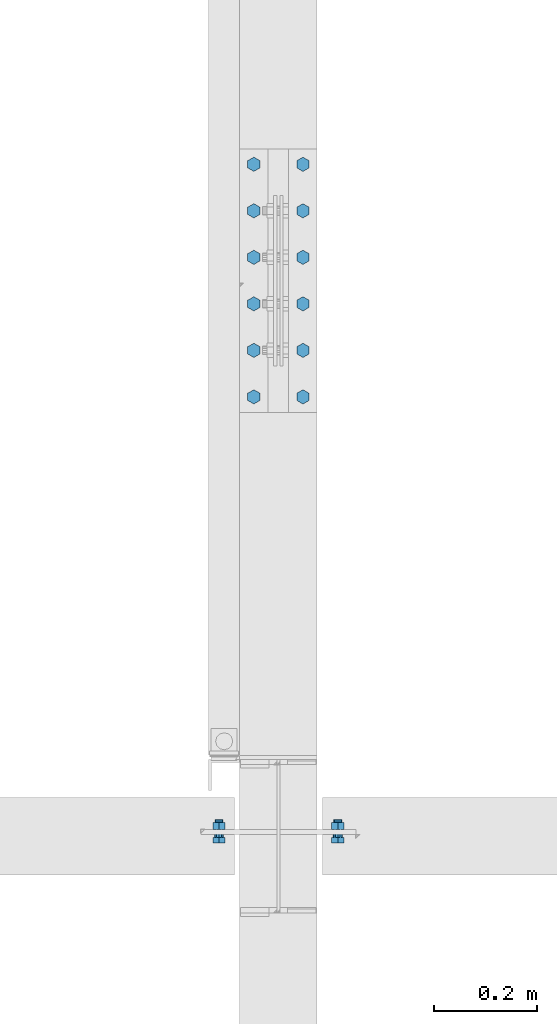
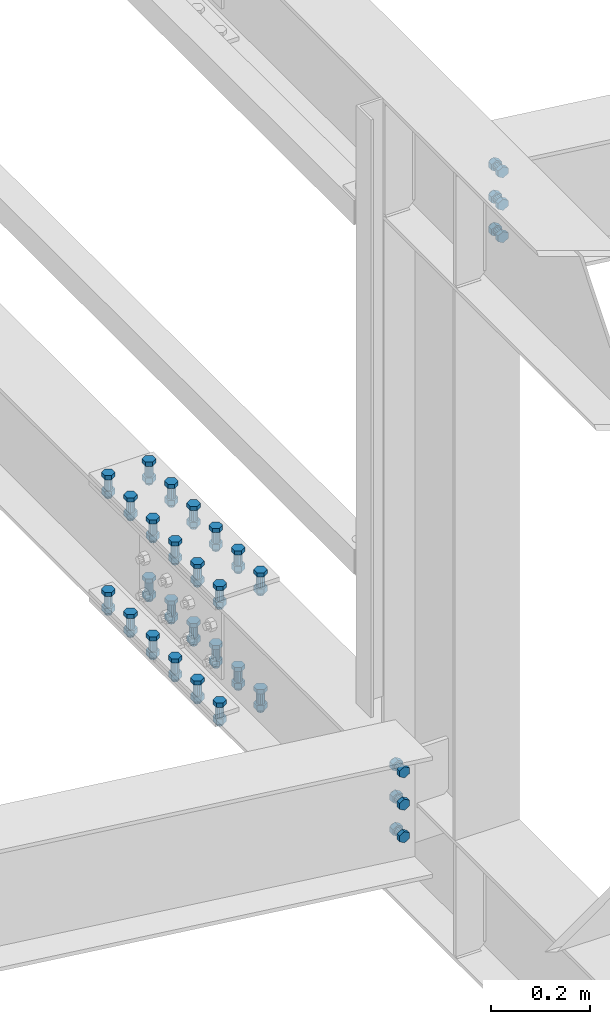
# One storey, part 142 of 3134: 10 mechanical fasteners, 4 elements without a shape of their own.
"""IFC2X3 building model written with IfcOpenShell, lengths in millimetres."""

import ifcopenshell
import ifcopenshell.guid

model = None  # the IFC model being written
_history = None  # IfcOwnerHistory: only IFC2X3 demands one
_inside = {}  # id of a spatial element -> (the spatial element, [elements in it])
_under = {}  # id of a project, library or spatial element -> (it, [spatial elements below it])
_declared = {}  # id of a project -> (the project, [libraries it declares])
_typed = {}  # id of a type object -> (the type object, [elements of that type])
_made_of = {}  # id of a material, layer set ... -> (it, [elements and type objects made of it])


def new_model(schema):
    """Start an empty IFC model of exactly this schema.

    Asked for "IFC4X3", IfcOpenShell would pick the latest addendum, in which some entities
    have other attributes; the version numbers below select the first issue.
    IFC2X3 requires an IfcOwnerHistory on every rooted entity: one is made here for all.
    """
    global model, _history
    if schema == "IFC4X3":
        model = ifcopenshell.file(schema_version=(4, 3, 0, 0))
    else:
        model = ifcopenshell.file(schema=schema)
    _inside.clear()
    _under.clear()
    _declared.clear()
    _typed.clear()
    _made_of.clear()
    _history = None
    if model.schema == "IFC2X3":
        org = make("IfcOrganization", Name="unknown")
        user = make(
            "IfcPersonAndOrganization",
            ThePerson=make("IfcPerson", FamilyName="unknown"),
            TheOrganization=org,
        )
        app = make(
            "IfcApplication",
            ApplicationDeveloper=org,
            Version="unknown",
            ApplicationFullName="unknown",
            ApplicationIdentifier="unknown",
        )
        _history = make(
            "IfcOwnerHistory",
            OwningUser=user,
            OwningApplication=app,
            ChangeAction="ADDED",
            CreationDate=0,
        )
    return model


def make(cls, **values):
    """One entity of the class cls with the attributes given. An attribute that is None is left unset."""
    return model.create_entity(
        cls, **{name: value for name, value in values.items() if value is not None}
    )


def rooted(cls, **values):
    """An entity with a GlobalId (a new one), such as an element, a storey or a relation."""
    return make(cls, GlobalId=ifcopenshell.guid.new(), OwnerHistory=_history, **values)


def si_unit(unit_type, name, prefix=None):
    """IfcSIUnit, for example si_unit("LENGTHUNIT", "METRE", prefix="MILLI")."""
    return make("IfcSIUnit", UnitType=unit_type, Prefix=prefix, Name=name)


def assignment(units):
    """IfcUnitAssignment: the units of a project."""
    return None if units is None else make("IfcUnitAssignment", Units=units)


def point(xyz):
    """IfcCartesianPoint."""
    return None if xyz is None else make("IfcCartesianPoint", Coordinates=xyz)


def direction(xyz):
    """IfcDirection."""
    return None if xyz is None else make("IfcDirection", DirectionRatios=xyz)


def frame(location, z_axis=None, x_axis=None):
    """IfcAxis2Placement3D, a coordinate frame: its origin and axes. An axis left out is left unset."""
    return make(
        "IfcAxis2Placement3D",
        Location=point(location),
        Axis=direction(z_axis),
        RefDirection=direction(x_axis),
    )


def origin_with_axes():
    """The frame at (0, 0, 0) with the z axis (0, 0, 1) and the x axis (1, 0, 0) written out."""
    return frame((0.0, 0.0, 0.0), z_axis=(0.0, 0.0, 1.0), x_axis=(1.0, 0.0, 0.0))


def place(relative_to, where):
    """IfcLocalPlacement: puts the frame where relative to a parent placement (None: the world)."""
    return make(
        "IfcLocalPlacement", PlacementRelTo=relative_to, RelativePlacement=where
    )


def context(
    kind, dimensions, precision=None, world=None, true_north=None, identifier=None
):
    """IfcGeometricRepresentationContext, for example the 3D "Model" context."""
    return make(
        "IfcGeometricRepresentationContext",
        ContextIdentifier=identifier,
        ContextType=kind,
        CoordinateSpaceDimension=dimensions,
        Precision=precision,
        WorldCoordinateSystem=world,
        TrueNorth=true_north,
    )


def subcontext(parent, identifier, kind, view, scale=None):
    """IfcGeometricRepresentationSubContext, for example "Body" below "Model"."""
    return make(
        "IfcGeometricRepresentationSubContext",
        ContextIdentifier=identifier,
        ContextType=kind,
        ParentContext=parent,
        TargetScale=scale,
        TargetView=view,
    )


def project(units=None, contexts=None):
    """IfcProject with its units and contexts."""
    return rooted(
        "IfcProject",
        Name="project",
        RepresentationContexts=contexts,
        UnitsInContext=assignment(units),
    )


def spatial(cls, under=None, at=None, **own):
    """A site, building, storey or space (cls), placed at a placement, below another one or the project."""
    s = rooted(cls, ObjectPlacement=at, **own)
    if under is not None:
        _under.setdefault(under.id(), (under, []))[1].append(s)
    return s


def faces_of(points, faces, orient=None, outer=None):
    """IfcFace entities. A face is a list of loops; a loop is a list of indices into points, from 0.

    orient and outer hold one flag for each loop. By default every Orientation is true, the
    first loop of a face is its IfcFaceOuterBound and the others are IfcFaceBound.
    """
    made = []
    for i, loops in enumerate(faces):
        bounds = []
        for j, loop in enumerate(loops):
            is_outer = j == 0 if outer is None else outer[i][j]
            bounds.append(
                make(
                    "IfcFaceOuterBound" if is_outer else "IfcFaceBound",
                    Bound=make("IfcPolyLoop", Polygon=[points[k] for k in loop]),
                    Orientation=True if orient is None else orient[i][j],
                )
            )
        made.append(make("IfcFace", Bounds=bounds))
    return made


def faceted_brep(points, faces, orient=None, outer=None, voids=None):
    """IfcFacetedBrep: a solid bounded by flat faces; with voids (closed shells), ...WithVoids."""
    shared = [point(p) for p in points]
    hull = make("IfcClosedShell", CfsFaces=faces_of(shared, faces, orient, outer))
    if voids is None:
        return make("IfcFacetedBrep", Outer=hull)
    return make(
        "IfcFacetedBrepWithVoids",
        Outer=hull,
        Voids=[
            make(cls, CfsFaces=faces_of(shared, fs, o, b)) for cls, fs, o, b in voids
        ],
    )


def shape(context_of_items, identifier, shape_type, items):
    """IfcShapeRepresentation: the items that make up one representation, for example the "Body"."""
    return make(
        "IfcShapeRepresentation",
        ContextOfItems=context_of_items,
        RepresentationIdentifier=identifier,
        RepresentationType=shape_type,
        Items=items,
    )


def source(mapping_origin, context_of_items, identifier, shape_type, items):
    """IfcRepresentationMap: a shape defined once, which mapped items show again and again."""
    return make(
        "IfcRepresentationMap",
        MappingOrigin=mapping_origin,
        MappedRepresentation=shape(context_of_items, identifier, shape_type, items),
    )


def transform(
    local_origin,
    x_axis=None,
    y_axis=None,
    z_axis=None,
    scale=None,
    scale2=None,
    scale3=None,
    uniform=True,
):
    """IfcCartesianTransformationOperator3D, or its non-uniform kind. x_axis, y_axis, z_axis: its Axis1, 2, 3."""
    if uniform:
        return make(
            "IfcCartesianTransformationOperator3D",
            Axis1=direction(x_axis),
            Axis2=direction(y_axis),
            LocalOrigin=point(local_origin),
            Scale=scale,
            Axis3=direction(z_axis),
        )
    return make(
        "IfcCartesianTransformationOperator3DnonUniform",
        Axis1=direction(x_axis),
        Axis2=direction(y_axis),
        LocalOrigin=point(local_origin),
        Scale=scale,
        Axis3=direction(z_axis),
        Scale2=scale2,
        Scale3=scale3,
    )


def mapped(mapping_source, mapping_target):
    """IfcMappedItem: shows the shape of a source again, moved by a transform."""
    return make(
        "IfcMappedItem", MappingSource=mapping_source, MappingTarget=mapping_target
    )


def material(Name=None, Category=None):
    """IfcMaterial."""
    return make("IfcMaterial", Name=Name, Category=Category)


def made_of(thing, what):
    """Note that an element or type object is made of a material, layer set ...; save() writes the relation."""
    if what is not None:
        _made_of.setdefault(what.id(), (what, []))[1].append(thing)
    return thing


def type_object(cls, material=None, **own):
    """A type object (cls), such as IfcWallType, which elements share."""
    return made_of(rooted(cls, **own), material)


def element(
    cls,
    number,
    at=None,
    inside=None,
    cuts=None,
    type_object=None,
    material=None,
    context=None,
    identifier="Body",
    shape_type=None,
    held_by="IfcProductDefinitionShape",
    body=None,
    shapes=None,
    **own,
):
    """One element of the class cls, such as IfcWall. Its Tag is "e" and its number.

    at: its placement. inside: the storey or other place that contains it. cuts: it is an
    opening in that element (IfcRelVoidsElement). A single representation is given by context,
    identifier, shape_type and body (its items); several are given by shapes. held_by: the class
    of the entity that holds the representations. save() writes the other relations.
    """
    e = rooted(cls, Tag="e%d" % number, ObjectPlacement=at, **own)
    if body is not None:
        shapes = [shape(context, identifier, shape_type, body)]
    if shapes is not None:
        e.Representation = make(held_by, Representations=shapes)
    if inside is not None:
        _inside.setdefault(inside.id(), (inside, []))[1].append(e)
    if cuts is not None:
        rooted(
            "IfcRelVoidsElement", RelatingBuildingElement=cuts, RelatedOpeningElement=e
        )
    if type_object is not None:
        _typed.setdefault(type_object.id(), (type_object, []))[1].append(e)
    return made_of(e, material)


def aggregate(whole, parts):
    """IfcRelAggregates: a whole, such as a stair, and the parts it consists of."""
    return rooted("IfcRelAggregates", RelatingObject=whole, RelatedObjects=parts)


def save(model, path):
    """Write the relations noted so far, then the file.

    IfcRelAggregates (storeys below a building ...), IfcRelContainedInSpatialStructure (elements
    in a storey), IfcRelDefinesByType, IfcRelAssociatesMaterial and IfcRelDeclares: one each for
    every whole, place, type object, material and project.
    """
    for whole, parts in _under.values():
        aggregate(whole, parts)
    for where, things in _inside.values():
        rooted(
            "IfcRelContainedInSpatialStructure",
            RelatedElements=things,
            RelatingStructure=where,
        )
    for kind, things in _typed.values():
        rooted("IfcRelDefinesByType", RelatedObjects=things, RelatingType=kind)
    for what, things in _made_of.values():
        rooted("IfcRelAssociatesMaterial", RelatedObjects=things, RelatingMaterial=what)
    for by, libraries in _declared.values():
        rooted("IfcRelDeclares", RelatingContext=by, RelatedDefinitions=libraries)
    model.write(path)


model = new_model("IFC2X3")

# Units and contexts
model_context = context("Model", 3, precision=1e-05, world=origin_with_axes())
body_context = subcontext(model_context, "Body", "Model", "MODEL_VIEW")
ifc_project = project(units=[si_unit("LENGTHUNIT", "METRE", prefix="MILLI"), si_unit("AREAUNIT", "SQUARE_METRE"), si_unit("VOLUMEUNIT", "CUBIC_METRE"), si_unit("MASSUNIT", "GRAM", prefix="KILO"), si_unit("TIMEUNIT", "SECOND"), si_unit("PLANEANGLEUNIT", "RADIAN"), si_unit("SOLIDANGLEUNIT", "STERADIAN"), si_unit("THERMODYNAMICTEMPERATUREUNIT", "DEGREE_CELSIUS"), si_unit("LUMINOUSINTENSITYUNIT", "LUMEN")], contexts=[model_context])

# Site, building, storey
site_placement = place(None, origin_with_axes())
site = spatial("IfcSite", under=ifc_project, at=site_placement, CompositionType="ELEMENT")
building_placement = place(site_placement, origin_with_axes())
building = spatial("IfcBuilding", under=site, at=building_placement, Name="Undefined", CompositionType="ELEMENT")
storey_placement = place(building_placement, origin_with_axes())
storey = spatial("IfcBuildingStorey", under=building, at=storey_placement, Name="Undefined", CompositionType="ELEMENT", Elevation=0.0)

# Assembly, mechanical fastener
assembly_1_placement = place(storey_placement, origin_with_axes())
assembly_1 = element("IfcElementAssembly", 1, at=assembly_1_placement, inside=storey, Name="300", AssemblyPlace="NOTDEFINED", PredefinedType="RIGID_FRAME")
ifc_material = material(Name="8.8")
mechanical_fastener_type = type_object("IfcMechanicalFastenerType", Name="Bolt assembly")
shared_shape_1 = source(origin_with_axes(), body_context, "Body", "Brep", [
    faceted_brep([(13.856406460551, -13.0499999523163, 0.0), (6.92820323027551, -13.0499999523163, 12.0), (-6.92820323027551, -13.0499999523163, 12.0), (-13.856406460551, -13.0499999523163, 1.69692038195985e-15), (-6.92820323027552, -13.0499999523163, -12.0), (6.9282032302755, -13.0499999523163, -12.0), (6.9282032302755, -3.04999995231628, -12.0), (-6.92820323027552, -3.04999995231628, -12.0), (-13.856406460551, -3.04999995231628, 1.69692038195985e-15), (-6.92820323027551, -3.04999995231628, 12.0), (6.92820323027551, -3.04999995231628, 12.0), (13.856406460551, -3.04999995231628, 0.0), (8.0, -3.04999995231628, 0.0), (6.92820323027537, -3.04999995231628, 4.00000000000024), (3.99999999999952, -3.04999995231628, 6.92820323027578), (-8.29068785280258e-13, -3.04999995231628, 8.0), (-4.00000000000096, -3.04999995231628, 6.92820323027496), (-6.9282032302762, -3.04999995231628, 3.99999999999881), (-8.0, -3.04999995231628, -1.65813757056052e-12), (-6.92820323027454, -3.04999995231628, -4.00000000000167), (-3.99999999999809, -3.04999995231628, -6.92820323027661), (2.47832457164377e-12, -3.04999995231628, -8.0), (4.00000000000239, -3.04999995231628, -6.92820323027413), (6.92820323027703, -3.04999995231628, -3.99999999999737), (6.92820323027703, 31.9500000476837, -3.99999999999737), (4.00000000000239, 31.9500000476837, -6.92820323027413), (2.47832457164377e-12, 31.9500000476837, -8.0), (-3.99999999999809, 31.9500000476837, -6.92820323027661), (-6.92820323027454, 31.9500000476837, -4.00000000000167), (-8.0, 31.9500000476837, -1.65813757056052e-12), (-6.9282032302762, 31.9500000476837, 3.99999999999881), (-4.00000000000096, 31.9500000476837, 6.92820323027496), (-8.29068785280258e-13, 31.9500000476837, 8.0), (3.99999999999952, 31.9500000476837, 6.92820323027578), (6.92820323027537, 31.9500000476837, 4.00000000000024), (8.0, 31.9500000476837, 0.0), (13.856406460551, 13.0500000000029, 0.0), (6.92820323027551, 13.0500000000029, 12.0), (-6.92820323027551, 13.0500000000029, 12.0), (-13.856406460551, 13.0500000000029, 1.69692038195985e-15), (-6.92820323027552, 13.0500000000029, -12.0), (6.9282032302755, 13.0500000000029, -12.0), (6.9282032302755, 26.0500000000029, -12.0), (-6.92820323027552, 26.0500000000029, -12.0), (-13.856406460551, 26.0500000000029, 1.69692038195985e-15), (-6.92820323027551, 26.0500000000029, 12.0), (6.92820323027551, 26.0500000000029, 12.0), (13.856406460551, 26.0500000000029, 0.0)], [[[0, 1, 2, 3, 4, 5]], [[6, 7, 8, 9, 10, 11]], [[0, 11, 10, 1]], [[1, 10, 9, 2]], [[2, 9, 8, 3]], [[3, 8, 7, 4]], [[4, 7, 6, 5]], [[5, 6, 11, 0]], [[12, 13, 14, 15, 16, 17, 18, 19, 20, 21, 22, 23]], [[24, 25, 26, 27, 28, 29, 30, 31, 32, 33, 34, 35]], [[12, 35, 34, 13]], [[13, 34, 33, 14]], [[14, 33, 32, 15]], [[15, 32, 31, 16]], [[16, 31, 30, 17]], [[17, 30, 29, 18]], [[18, 29, 28, 19]], [[19, 28, 27, 20]], [[20, 27, 26, 21]], [[21, 26, 25, 22]], [[22, 25, 24, 23]], [[23, 24, 35, 12]], [[36, 37, 38, 39, 40, 41]], [[42, 43, 44, 45, 46, 47]], [[36, 47, 46, 37]], [[37, 46, 45, 38]], [[38, 45, 44, 39]], [[39, 44, 43, 40]], [[40, 43, 42, 41]], [[41, 42, 47, 36]]]),
    faceted_brep([(9.0, 2.95000000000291, 0.0), (7.79422863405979, 2.95000000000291, 4.50000000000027), (4.49999999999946, 2.95000000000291, 7.79422863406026), (-9.3270238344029e-13, 2.95000000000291, 9.0), (-4.50000000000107, 2.95000000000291, 7.79422863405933), (-7.79422863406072, 2.95000000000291, 4.49999999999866), (-9.0, 2.95000000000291, -1.86540476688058e-12), (-7.79422863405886, 2.95000000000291, -4.50000000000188), (-4.49999999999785, 2.95000000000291, -7.79422863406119), (2.78811514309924e-12, 2.95000000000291, -9.0), (4.50000000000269, 2.95000000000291, -7.7942286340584), (7.79422863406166, 2.95000000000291, -4.49999999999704), (7.79422863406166, 13.0500000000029, -4.49999999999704), (4.50000000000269, 13.0500000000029, -7.7942286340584), (2.78811514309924e-12, 13.0500000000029, -9.0), (-4.49999999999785, 13.0500000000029, -7.79422863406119), (-7.79422863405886, 13.0500000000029, -4.50000000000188), (-9.0, 13.0500000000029, -1.86540476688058e-12), (-7.79422863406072, 13.0500000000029, 4.49999999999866), (-4.50000000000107, 13.0500000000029, 7.79422863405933), (-9.3270238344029e-13, 13.0500000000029, 9.0), (4.49999999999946, 13.0500000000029, 7.79422863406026), (7.79422863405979, 13.0500000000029, 4.50000000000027), (9.0, 13.0500000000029, 0.0), (9.0, -2.94999995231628, 0.0), (7.79422863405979, -2.94999995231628, 4.50000000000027), (4.49999999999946, -2.94999995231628, 7.79422863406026), (-9.3270238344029e-13, -2.94999995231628, 9.0), (-4.50000000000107, -2.94999995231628, 7.79422863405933), (-7.79422863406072, -2.94999995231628, 4.49999999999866), (-9.0, -2.94999995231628, -1.86540476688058e-12), (-7.79422863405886, -2.94999995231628, -4.50000000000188), (-4.49999999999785, -2.94999995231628, -7.79422863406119), (2.78811514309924e-12, -2.94999995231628, -9.0), (4.50000000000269, -2.94999995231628, -7.7942286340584), (7.79422863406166, -2.94999995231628, -4.49999999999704), (7.79422863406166, 3.14999995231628, -4.49999999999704), (4.50000000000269, 3.14999995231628, -7.7942286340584), (2.78811514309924e-12, 3.14999995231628, -9.0), (-4.49999999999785, 3.14999995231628, -7.79422863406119), (-7.79422863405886, 3.14999995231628, -4.50000000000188), (-9.0, 3.14999995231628, -1.86540476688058e-12), (-7.79422863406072, 3.14999995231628, 4.49999999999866), (-4.50000000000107, 3.14999995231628, 7.79422863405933), (-9.3270238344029e-13, 3.14999995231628, 9.0), (4.49999999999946, 3.14999995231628, 7.79422863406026), (7.79422863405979, 3.14999995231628, 4.50000000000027), (9.0, 3.14999995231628, 0.0)], [[[0, 1, 2, 3, 4, 5, 6, 7, 8, 9, 10, 11]], [[12, 13, 14, 15, 16, 17, 18, 19, 20, 21, 22, 23]], [[0, 23, 22, 1]], [[1, 22, 21, 2]], [[2, 21, 20, 3]], [[3, 20, 19, 4]], [[4, 19, 18, 5]], [[5, 18, 17, 6]], [[6, 17, 16, 7]], [[7, 16, 15, 8]], [[8, 15, 14, 9]], [[9, 14, 13, 10]], [[10, 13, 12, 11]], [[11, 12, 23, 0]], [[24, 25, 26, 27, 28, 29, 30, 31, 32, 33, 34, 35]], [[36, 37, 38, 39, 40, 41, 42, 43, 44, 45, 46, 47]], [[24, 47, 46, 25]], [[25, 46, 45, 26]], [[26, 45, 44, 27]], [[27, 44, 43, 28]], [[28, 43, 42, 29]], [[29, 42, 41, 30]], [[30, 41, 40, 31]], [[31, 40, 39, 32]], [[32, 39, 38, 33]], [[33, 38, 37, 34]], [[34, 37, 36, 35]], [[35, 36, 47, 24]]]),
])
mechanical_fastener_1_placement = place(assembly_1_placement, frame((32640.0, 27250.0, 5735.35014950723), z_axis=(1.0, 0.0, 0.0), x_axis=(0.0, 0.0, -1.0)))
mechanical_fastener_1 = element("IfcMechanicalFastener", 2, at=mechanical_fastener_1_placement, type_object=mechanical_fastener_type, material=ifc_material, Name="Bolt assembly", NominalDiameter=16.0, NominalLength=35.0, context=body_context, shape_type="MappedRepresentation", body=[
    mapped(shared_shape_1, transform((0.0, 0.0, 0.0))),
    mapped(shared_shape_1, transform((80.0, 0.0, 0.0))),
    mapped(shared_shape_1, transform((160.0, 0.0, 0.0))),
])
aggregate(assembly_1, [mechanical_fastener_1])

assembly_2_placement = place(storey_placement, origin_with_axes())
assembly_2 = element("IfcElementAssembly", 3, at=assembly_2_placement, inside=storey, Name="300", AssemblyPlace="NOTDEFINED", PredefinedType="RIGID_FRAME")
mechanical_fastener_2_placement = place(assembly_2_placement, frame((32410.0, 27250.0, 4337.44269270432), z_axis=(1.0, 0.0, 0.0), x_axis=(0.0, 0.0, -1.0)))
mechanical_fastener_2 = element("IfcMechanicalFastener", 4, at=mechanical_fastener_2_placement, type_object=mechanical_fastener_type, material=ifc_material, Name="Bolt assembly", NominalDiameter=16.0, NominalLength=35.0, context=body_context, shape_type="MappedRepresentation", body=[
    mapped(shared_shape_1, transform((0.0, 0.0, 0.0))),
    mapped(shared_shape_1, transform((80.0, 0.0, 0.0))),
    mapped(shared_shape_1, transform((160.0, 0.0, 0.0))),
])
aggregate(assembly_2, [mechanical_fastener_2])

assembly_3_placement = place(storey_placement, origin_with_axes())
assembly_3 = element("IfcElementAssembly", 5, at=assembly_3_placement, inside=storey, Name="300", AssemblyPlace="NOTDEFINED", PredefinedType="RIGID_FRAME")
shared_shape_2 = source(origin_with_axes(), body_context, "Body", "Brep", [
    faceted_brep([(13.856406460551, -29.1999998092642, 0.0), (6.92820323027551, -29.1999998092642, 12.0), (-6.92820323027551, -29.1999998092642, 12.0), (-13.856406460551, -29.1999998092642, 1.69692038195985e-15), (-6.92820323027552, -29.1999998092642, -12.0), (6.9282032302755, -29.1999998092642, -12.0), (6.9282032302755, -19.199990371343, -12.0), (-6.92820323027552, -19.199990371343, -12.0), (-13.856406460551, -19.199990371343, 1.69692038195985e-15), (-6.92820323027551, -19.199990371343, 12.0), (6.92820323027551, -19.199990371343, 12.0), (13.856406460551, -19.199990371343, 0.0), (8.0, -19.1999998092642, 0.0), (6.92820323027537, -19.1999998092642, 4.00000000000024), (3.99999999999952, -19.1999998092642, 6.92820323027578), (-8.29068785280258e-13, -19.1999998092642, 8.0), (-4.00000000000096, -19.1999998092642, 6.92820323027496), (-6.9282032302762, -19.1999998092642, 3.99999999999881), (-8.0, -19.1999998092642, -1.65813757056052e-12), (-6.92820323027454, -19.1999998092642, -4.00000000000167), (-3.99999999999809, -19.1999998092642, -6.92820323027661), (2.47832457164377e-12, -19.1999998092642, -8.0), (4.00000000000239, -19.1999998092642, -6.92820323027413), (6.92820323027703, -19.1999998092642, -3.99999999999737), (6.92820323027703, 30.8000001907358, -3.99999999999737), (4.00000000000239, 30.8000001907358, -6.92820323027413), (2.47832457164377e-12, 30.8000001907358, -8.0), (-3.99999999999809, 30.8000001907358, -6.92820323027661), (-6.92820323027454, 30.8000001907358, -4.00000000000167), (-8.0, 30.8000001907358, -1.65813757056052e-12), (-6.9282032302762, 30.8000001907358, 3.99999999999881), (-4.00000000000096, 30.8000001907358, 6.92820323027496), (-8.29068785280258e-13, 30.8000001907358, 8.0), (3.99999999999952, 30.8000001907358, 6.92820323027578), (6.92820323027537, 30.8000001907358, 4.00000000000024), (8.0, 30.8000001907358, 0.0), (13.856406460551, 9.99999995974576, 0.0), (6.92820323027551, 9.99999995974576, 12.0), (-6.92820323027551, 9.99999995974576, 12.0), (-13.856406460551, 9.99999995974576, 1.69692038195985e-15), (-6.92820323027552, 9.99999995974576, -12.0), (6.9282032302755, 9.99999995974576, -12.0), (6.9282032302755, 22.9999913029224, -12.0), (-6.92820323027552, 22.9999913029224, -12.0), (-13.856406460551, 22.9999913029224, 1.69692038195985e-15), (-6.92820323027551, 22.9999913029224, 12.0), (6.92820323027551, 22.9999913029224, 12.0), (13.856406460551, 22.9999913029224, 0.0)], [[[0, 1, 2, 3, 4, 5]], [[6, 7, 8, 9, 10, 11]], [[0, 11, 10, 1]], [[1, 10, 9, 2]], [[2, 9, 8, 3]], [[3, 8, 7, 4]], [[4, 7, 6, 5]], [[5, 6, 11, 0]], [[12, 13, 14, 15, 16, 17, 18, 19, 20, 21, 22, 23]], [[24, 25, 26, 27, 28, 29, 30, 31, 32, 33, 34, 35]], [[12, 35, 34, 13]], [[13, 34, 33, 14]], [[14, 33, 32, 15]], [[15, 32, 31, 16]], [[16, 31, 30, 17]], [[17, 30, 29, 18]], [[18, 29, 28, 19]], [[19, 28, 27, 20]], [[20, 27, 26, 21]], [[21, 26, 25, 22]], [[22, 25, 24, 23]], [[23, 24, 35, 12]], [[36, 37, 38, 39, 40, 41]], [[42, 43, 44, 45, 46, 47]], [[36, 47, 46, 37]], [[37, 46, 45, 38]], [[38, 45, 44, 39]], [[39, 44, 43, 40]], [[40, 43, 42, 41]], [[41, 42, 47, 36]]]),
    faceted_brep([(9.0, -19.0999998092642, 0.0), (7.79422863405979, -19.0999998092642, 4.50000000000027), (4.49999999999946, -19.0999998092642, 7.79422863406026), (-9.3270238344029e-13, -19.0999998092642, 9.0), (-4.50000000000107, -19.0999998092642, 7.79422863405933), (-7.79422863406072, -19.0999998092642, 4.49999999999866), (-9.0, -19.0999998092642, -1.86540476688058e-12), (-7.79422863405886, -19.0999998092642, -4.50000000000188), (-4.49999999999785, -19.0999998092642, -7.79422863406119), (2.78811514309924e-12, -19.0999998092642, -9.0), (4.50000000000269, -19.0999998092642, -7.7942286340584), (7.79422863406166, -19.0999998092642, -4.49999999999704), (7.79422863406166, -9.09999037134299, -4.49999999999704), (4.50000000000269, -9.09999037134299, -7.7942286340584), (2.78811514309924e-12, -9.09999037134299, -9.0), (-4.49999999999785, -9.09999037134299, -7.79422863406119), (-7.79422863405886, -9.09999037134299, -4.50000000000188), (-9.0, -9.09999037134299, -1.86540476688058e-12), (-7.79422863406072, -9.09999037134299, 4.49999999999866), (-4.50000000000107, -9.09999037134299, 7.79422863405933), (-9.3270238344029e-13, -9.09999037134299, 9.0), (4.49999999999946, -9.09999037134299, 7.79422863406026), (7.79422863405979, -9.09999037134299, 4.50000000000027), (9.0, -9.09999037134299, 0.0), (9.0, -9.20000008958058, 0.0), (7.79422863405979, -9.20000008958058, 4.50000000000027), (4.49999999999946, -9.20000008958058, 7.79422863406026), (-9.3270238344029e-13, -9.20000008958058, 9.0), (-4.50000000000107, -9.20000008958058, 7.79422863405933), (-7.79422863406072, -9.20000008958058, 4.49999999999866), (-9.0, -9.20000008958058, -1.86540476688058e-12), (-7.79422863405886, -9.20000008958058, -4.50000000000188), (-4.49999999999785, -9.20000008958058, -7.79422863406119), (2.78811514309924e-12, -9.20000008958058, -9.0), (4.50000000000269, -9.20000008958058, -7.7942286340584), (7.79422863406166, -9.20000008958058, -4.49999999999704), (7.79422863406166, -3.46568413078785e-07, -4.49999999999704), (4.50000000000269, -3.46568413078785e-07, -7.7942286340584), (2.78811514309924e-12, -3.46568413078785e-07, -9.0), (-4.49999999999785, -3.46568413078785e-07, -7.79422863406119), (-7.79422863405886, -3.46568413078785e-07, -4.50000000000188), (-9.0, -3.46568413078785e-07, -1.86540476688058e-12), (-7.79422863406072, -3.46568413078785e-07, 4.49999999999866), (-4.50000000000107, -3.46568413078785e-07, 7.79422863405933), (-9.3270238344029e-13, -3.46568413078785e-07, 9.0), (4.49999999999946, -3.46568413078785e-07, 7.79422863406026), (7.79422863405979, -3.46568413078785e-07, 4.50000000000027), (9.0, -3.46568413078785e-07, 0.0), (9.0, -0.1, 0.0), (7.79422863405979, -0.1, 4.50000000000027), (4.49999999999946, -0.1, 7.79422863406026), (-9.3270238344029e-13, -0.1, 9.0), (-4.50000000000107, -0.1, 7.79422863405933), (-7.79422863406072, -0.1, 4.49999999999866), (-9.0, -0.1, -1.86540476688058e-12), (-7.79422863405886, -0.1, -4.50000000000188), (-4.49999999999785, -0.1, -7.79422863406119), (2.78811514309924e-12, -0.1, -9.0), (4.50000000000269, -0.1, -7.7942286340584), (7.79422863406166, -0.1, -4.49999999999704), (7.79422863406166, 9.99999995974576, -4.49999999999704), (4.50000000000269, 9.99999995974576, -7.7942286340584), (2.78811514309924e-12, 9.99999995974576, -9.0), (-4.49999999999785, 9.99999995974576, -7.79422863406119), (-7.79422863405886, 9.99999995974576, -4.50000000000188), (-9.0, 9.99999995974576, -1.86540476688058e-12), (-7.79422863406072, 9.99999995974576, 4.49999999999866), (-4.50000000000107, 9.99999995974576, 7.79422863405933), (-9.3270238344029e-13, 9.99999995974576, 9.0), (4.49999999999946, 9.99999995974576, 7.79422863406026), (7.79422863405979, 9.99999995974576, 4.50000000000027), (9.0, 9.99999995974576, 0.0)], [[[0, 1, 2, 3, 4, 5, 6, 7, 8, 9, 10, 11]], [[12, 13, 14, 15, 16, 17, 18, 19, 20, 21, 22, 23]], [[0, 23, 22, 1]], [[1, 22, 21, 2]], [[2, 21, 20, 3]], [[3, 20, 19, 4]], [[4, 19, 18, 5]], [[5, 18, 17, 6]], [[6, 17, 16, 7]], [[7, 16, 15, 8]], [[8, 15, 14, 9]], [[9, 14, 13, 10]], [[10, 13, 12, 11]], [[11, 12, 23, 0]], [[24, 25, 26, 27, 28, 29, 30, 31, 32, 33, 34, 35]], [[36, 37, 38, 39, 40, 41, 42, 43, 44, 45, 46, 47]], [[24, 47, 46, 25]], [[25, 46, 45, 26]], [[26, 45, 44, 27]], [[27, 44, 43, 28]], [[28, 43, 42, 29]], [[29, 42, 41, 30]], [[30, 41, 40, 31]], [[31, 40, 39, 32]], [[32, 39, 38, 33]], [[33, 38, 37, 34]], [[34, 37, 36, 35]], [[35, 36, 47, 24]], [[48, 49, 50, 51, 52, 53, 54, 55, 56, 57, 58, 59]], [[60, 61, 62, 63, 64, 65, 66, 67, 68, 69, 70, 71]], [[48, 71, 70, 49]], [[49, 70, 69, 50]], [[50, 69, 68, 51]], [[51, 68, 67, 52]], [[52, 67, 66, 53]], [[53, 66, 65, 54]], [[54, 65, 64, 55]], [[55, 64, 63, 56]], [[56, 63, 62, 57]], [[57, 62, 61, 58]], [[58, 61, 60, 59]], [[59, 60, 71, 48]]]),
])
mechanical_fastener_3_placement = place(assembly_3_placement, frame((32572.5, 28099.9, 4227.80000019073), z_axis=(-1.0, 0.0, 0.0), x_axis=(0.0, 1.0, 0.0)))
mechanical_fastener_3 = element("IfcMechanicalFastener", 6, at=mechanical_fastener_3_placement, type_object=mechanical_fastener_type, material=ifc_material, Name="Bolt assembly", NominalDiameter=16.0, NominalLength=50.0, context=body_context, shape_type="MappedRepresentation", body=[
    mapped(shared_shape_2, transform((0.0, 0.0, 0.0))),
    mapped(shared_shape_2, transform((90.0, 0.0, 0.0))),
    mapped(shared_shape_2, transform((180.0, 0.0, 0.0))),
])

# Assembly, mechanical fasteners
assembly_4_placement = place(storey_placement, origin_with_axes())
assembly_4 = element("IfcElementAssembly", 7, at=assembly_4_placement, inside=storey, Name="300", AssemblyPlace="NOTDEFINED", PredefinedType="RIGID_FRAME")
mechanical_fastener_4_placement = place(assembly_4_placement, frame((32572.5, 28369.9, 4227.80000019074), z_axis=(-1.0, 0.0, 0.0), x_axis=(0.0, 1.0, 0.0)))
mechanical_fastener_4 = element("IfcMechanicalFastener", 8, at=mechanical_fastener_4_placement, type_object=mechanical_fastener_type, material=ifc_material, Name="Bolt assembly", NominalDiameter=16.0, NominalLength=50.0, context=body_context, shape_type="MappedRepresentation", body=[
    mapped(shared_shape_2, transform((0.0, 0.0, 0.0))),
    mapped(shared_shape_2, transform((90.0, 0.0, 0.0))),
    mapped(shared_shape_2, transform((180.0, 0.0, 0.0))),
])
mechanical_fastener_5_placement = place(assembly_4_placement, frame((32477.5, 28369.9, 4227.80000019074), z_axis=(-1.0, 0.0, 0.0), x_axis=(0.0, 1.0, 0.0)))
mechanical_fastener_5 = element("IfcMechanicalFastener", 9, at=mechanical_fastener_5_placement, type_object=mechanical_fastener_type, material=ifc_material, Name="Bolt assembly", NominalDiameter=16.0, NominalLength=50.0, context=body_context, shape_type="MappedRepresentation", body=[
    mapped(shared_shape_2, transform((0.0, 0.0, 0.0))),
    mapped(shared_shape_2, transform((90.0, 0.0, 0.0))),
    mapped(shared_shape_2, transform((180.0, 0.0, 0.0))),
])

# Mechanical fastener
mechanical_fastener_6_placement = place(assembly_3_placement, frame((32477.5, 28099.9, 4227.80000019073), z_axis=(-1.0, 0.0, 0.0), x_axis=(0.0, 1.0, 0.0)))
mechanical_fastener_6 = element("IfcMechanicalFastener", 10, at=mechanical_fastener_6_placement, type_object=mechanical_fastener_type, material=ifc_material, Name="Bolt assembly", NominalDiameter=16.0, NominalLength=50.0, context=body_context, shape_type="MappedRepresentation", body=[
    mapped(shared_shape_2, transform((0.0, 0.0, 0.0))),
    mapped(shared_shape_2, transform((90.0, 0.0, 0.0))),
    mapped(shared_shape_2, transform((180.0, 0.0, 0.0))),
])

shared_shape_3 = source(origin_with_axes(), body_context, "Body", "Brep", [
    faceted_brep([(13.856406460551, -20.0, 0.0), (6.92820323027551, -20.0, 12.0), (-6.92820323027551, -20.0, 12.0), (-13.856406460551, -20.0, 1.69692038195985e-15), (-6.92820323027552, -20.0, -12.0), (6.9282032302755, -20.0, -12.0), (6.9282032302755, -10.0, -12.0), (-6.92820323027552, -10.0, -12.0), (-13.856406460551, -10.0, 1.69692038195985e-15), (-6.92820323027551, -10.0, 12.0), (6.92820323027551, -10.0, 12.0), (13.856406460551, -10.0, 0.0), (8.0, -10.0, 0.0), (6.92820323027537, -10.0, 4.00000000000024), (3.99999999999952, -10.0, 6.92820323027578), (-8.29068785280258e-13, -10.0, 8.0), (-4.00000000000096, -10.0, 6.92820323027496), (-6.9282032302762, -10.0, 3.99999999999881), (-8.0, -10.0, -1.65813757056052e-12), (-6.92820323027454, -10.0, -4.00000000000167), (-3.99999999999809, -10.0, -6.92820323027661), (2.47832457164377e-12, -10.0, -8.0), (4.00000000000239, -10.0, -6.92820323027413), (6.92820323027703, -10.0, -3.99999999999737), (6.92820323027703, 40.0, -3.99999999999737), (4.00000000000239, 40.0, -6.92820323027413), (2.47832457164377e-12, 40.0, -8.0), (-3.99999999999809, 40.0, -6.92820323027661), (-6.92820323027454, 40.0, -4.00000000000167), (-8.0, 40.0, -1.65813757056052e-12), (-6.9282032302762, 40.0, 3.99999999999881), (-4.00000000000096, 40.0, 6.92820323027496), (-8.29068785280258e-13, 40.0, 8.0), (3.99999999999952, 40.0, 6.92820323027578), (6.92820323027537, 40.0, 4.00000000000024), (8.0, 40.0, 0.0), (13.856406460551, 19.1999998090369, 0.0), (6.92820323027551, 19.1999998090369, 12.0), (-6.92820323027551, 19.1999998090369, 12.0), (-13.856406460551, 19.1999998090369, 1.69692038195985e-15), (-6.92820323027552, 19.1999998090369, -12.0), (6.9282032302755, 19.1999998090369, -12.0), (6.9282032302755, 32.1999998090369, -12.0), (-6.92820323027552, 32.1999998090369, -12.0), (-13.856406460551, 32.1999998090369, 1.69692038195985e-15), (-6.92820323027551, 32.1999998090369, 12.0), (6.92820323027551, 32.1999998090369, 12.0), (13.856406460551, 32.1999998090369, 0.0)], [[[0, 1, 2, 3, 4, 5]], [[6, 7, 8, 9, 10, 11]], [[0, 11, 10, 1]], [[1, 10, 9, 2]], [[2, 9, 8, 3]], [[3, 8, 7, 4]], [[4, 7, 6, 5]], [[5, 6, 11, 0]], [[12, 13, 14, 15, 16, 17, 18, 19, 20, 21, 22, 23]], [[24, 25, 26, 27, 28, 29, 30, 31, 32, 33, 34, 35]], [[12, 35, 34, 13]], [[13, 34, 33, 14]], [[14, 33, 32, 15]], [[15, 32, 31, 16]], [[16, 31, 30, 17]], [[17, 30, 29, 18]], [[18, 29, 28, 19]], [[19, 28, 27, 20]], [[20, 27, 26, 21]], [[21, 26, 25, 22]], [[22, 25, 24, 23]], [[23, 24, 35, 12]], [[36, 37, 38, 39, 40, 41]], [[42, 43, 44, 45, 46, 47]], [[36, 47, 46, 37]], [[37, 46, 45, 38]], [[38, 45, 44, 39]], [[39, 44, 43, 40]], [[40, 43, 42, 41]], [[41, 42, 47, 36]]]),
    faceted_brep([(9.0, 9.09999980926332, 0.0), (7.79422863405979, 9.09999980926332, 4.50000000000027), (4.49999999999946, 9.09999980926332, 7.79422863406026), (-9.3270238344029e-13, 9.09999980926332, 9.0), (-4.50000000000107, 9.09999980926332, 7.79422863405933), (-7.79422863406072, 9.09999980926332, 4.49999999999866), (-9.0, 9.09999980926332, -1.86540476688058e-12), (-7.79422863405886, 9.09999980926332, -4.50000000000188), (-4.49999999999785, 9.09999980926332, -7.79422863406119), (2.78811514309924e-12, 9.09999980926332, -9.0), (4.50000000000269, 9.09999980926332, -7.7942286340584), (7.79422863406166, 9.09999980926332, -4.49999999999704), (7.79422863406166, 19.1999998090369, -4.49999999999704), (4.50000000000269, 19.1999998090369, -7.7942286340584), (2.78811514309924e-12, 19.1999998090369, -9.0), (-4.49999999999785, 19.1999998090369, -7.79422863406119), (-7.79422863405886, 19.1999998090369, -4.50000000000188), (-9.0, 19.1999998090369, -1.86540476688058e-12), (-7.79422863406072, 19.1999998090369, 4.49999999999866), (-4.50000000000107, 19.1999998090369, 7.79422863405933), (-9.3270238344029e-13, 19.1999998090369, 9.0), (4.49999999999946, 19.1999998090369, 7.79422863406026), (7.79422863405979, 19.1999998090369, 4.50000000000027), (9.0, 19.1999998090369, 0.0), (9.0, -3.46568413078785e-07, 0.0), (7.79422863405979, -3.46568413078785e-07, 4.50000000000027), (4.49999999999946, -3.46568413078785e-07, 7.79422863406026), (-9.3270238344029e-13, -3.46568413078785e-07, 9.0), (-4.50000000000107, -3.46568413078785e-07, 7.79422863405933), (-7.79422863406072, -3.46568413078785e-07, 4.49999999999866), (-9.0, -3.46568413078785e-07, -1.86540476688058e-12), (-7.79422863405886, -3.46568413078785e-07, -4.50000000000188), (-4.49999999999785, -3.46568413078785e-07, -7.79422863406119), (2.78811514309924e-12, -3.46568413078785e-07, -9.0), (4.50000000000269, -3.46568413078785e-07, -7.7942286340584), (7.79422863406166, -3.46568413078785e-07, -4.49999999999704), (7.79422863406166, 9.19999980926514, -4.49999999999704), (4.50000000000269, 9.19999980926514, -7.7942286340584), (2.78811514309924e-12, 9.19999980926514, -9.0), (-4.49999999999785, 9.19999980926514, -7.79422863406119), (-7.79422863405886, 9.19999980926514, -4.50000000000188), (-9.0, 9.19999980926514, -1.86540476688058e-12), (-7.79422863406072, 9.19999980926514, 4.49999999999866), (-4.50000000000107, 9.19999980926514, 7.79422863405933), (-9.3270238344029e-13, 9.19999980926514, 9.0), (4.49999999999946, 9.19999980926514, 7.79422863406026), (7.79422863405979, 9.19999980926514, 4.50000000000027), (9.0, 9.19999980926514, 0.0), (9.0, -9.89999997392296, 0.0), (7.79422863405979, -9.89999997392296, 4.50000000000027), (4.49999999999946, -9.89999997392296, 7.79422863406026), (-9.3270238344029e-13, -9.89999997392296, 9.0), (-4.50000000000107, -9.89999997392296, 7.79422863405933), (-7.79422863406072, -9.89999997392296, 4.49999999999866), (-9.0, -9.89999997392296, -1.86540476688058e-12), (-7.79422863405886, -9.89999997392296, -4.50000000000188), (-4.49999999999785, -9.89999997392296, -7.79422863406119), (2.78811514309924e-12, -9.89999997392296, -9.0), (4.50000000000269, -9.89999997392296, -7.7942286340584), (7.79422863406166, -9.89999997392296, -4.49999999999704), (7.79422863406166, 0.100000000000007, -4.49999999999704), (4.50000000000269, 0.100000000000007, -7.7942286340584), (2.78811514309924e-12, 0.100000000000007, -9.0), (-4.49999999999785, 0.100000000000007, -7.79422863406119), (-7.79422863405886, 0.100000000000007, -4.50000000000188), (-9.0, 0.100000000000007, -1.86540476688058e-12), (-7.79422863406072, 0.100000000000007, 4.49999999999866), (-4.50000000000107, 0.100000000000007, 7.79422863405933), (-9.3270238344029e-13, 0.100000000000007, 9.0), (4.49999999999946, 0.100000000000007, 7.79422863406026), (7.79422863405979, 0.100000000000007, 4.50000000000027), (9.0, 0.100000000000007, 0.0)], [[[0, 1, 2, 3, 4, 5, 6, 7, 8, 9, 10, 11]], [[12, 13, 14, 15, 16, 17, 18, 19, 20, 21, 22, 23]], [[0, 23, 22, 1]], [[1, 22, 21, 2]], [[2, 21, 20, 3]], [[3, 20, 19, 4]], [[4, 19, 18, 5]], [[5, 18, 17, 6]], [[6, 17, 16, 7]], [[7, 16, 15, 8]], [[8, 15, 14, 9]], [[9, 14, 13, 10]], [[10, 13, 12, 11]], [[11, 12, 23, 0]], [[24, 25, 26, 27, 28, 29, 30, 31, 32, 33, 34, 35]], [[36, 37, 38, 39, 40, 41, 42, 43, 44, 45, 46, 47]], [[24, 47, 46, 25]], [[25, 46, 45, 26]], [[26, 45, 44, 27]], [[27, 44, 43, 28]], [[28, 43, 42, 29]], [[29, 42, 41, 30]], [[30, 41, 40, 31]], [[31, 40, 39, 32]], [[32, 39, 38, 33]], [[33, 38, 37, 34]], [[34, 37, 36, 35]], [[35, 36, 47, 24]], [[48, 49, 50, 51, 52, 53, 54, 55, 56, 57, 58, 59]], [[60, 61, 62, 63, 64, 65, 66, 67, 68, 69, 70, 71]], [[48, 71, 70, 49]], [[49, 70, 69, 50]], [[50, 69, 68, 51]], [[51, 68, 67, 52]], [[52, 67, 66, 53]], [[53, 66, 65, 54]], [[54, 65, 64, 55]], [[55, 64, 63, 56]], [[56, 63, 62, 57]], [[57, 62, 61, 58]], [[58, 61, 60, 59]], [[59, 60, 71, 48]]]),
])
mechanical_fastener_7_placement = place(assembly_4_placement, frame((32572.4999999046, 28369.9, 3949.19999980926), z_axis=(-1.0, 0.0, 0.0), x_axis=(0.0, 1.0, 0.0)))
mechanical_fastener_7 = element("IfcMechanicalFastener", 11, at=mechanical_fastener_7_placement, type_object=mechanical_fastener_type, material=ifc_material, Name="Bolt assembly", NominalDiameter=16.0, NominalLength=50.0, context=body_context, shape_type="MappedRepresentation", body=[
    mapped(shared_shape_3, transform((0.0, 0.0, 0.0))),
    mapped(shared_shape_3, transform((90.0, 0.0, 0.0))),
    mapped(shared_shape_3, transform((180.0, 0.0, 0.0))),
])

mechanical_fastener_8_placement = place(assembly_4_placement, frame((32477.4999999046, 28369.9, 3949.19999980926), z_axis=(-1.0, 0.0, 0.0), x_axis=(0.0, 1.0, 0.0)))
mechanical_fastener_8 = element("IfcMechanicalFastener", 12, at=mechanical_fastener_8_placement, type_object=mechanical_fastener_type, material=ifc_material, Name="Bolt assembly", NominalDiameter=16.0, NominalLength=50.0, context=body_context, shape_type="MappedRepresentation", body=[
    mapped(shared_shape_3, transform((0.0, 0.0, 0.0))),
    mapped(shared_shape_3, transform((90.0, 0.0, 0.0))),
    mapped(shared_shape_3, transform((180.0, 0.0, 0.0))),
])

aggregate(assembly_4, [mechanical_fastener_4, mechanical_fastener_5, mechanical_fastener_7, mechanical_fastener_8])

mechanical_fastener_9_placement = place(assembly_3_placement, frame((32572.4999999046, 28099.9, 3949.19999980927), z_axis=(-1.0, 0.0, 0.0), x_axis=(0.0, 1.0, 0.0)))
mechanical_fastener_9 = element("IfcMechanicalFastener", 13, at=mechanical_fastener_9_placement, type_object=mechanical_fastener_type, material=ifc_material, Name="Bolt assembly", NominalDiameter=16.0, NominalLength=50.0, context=body_context, shape_type="MappedRepresentation", body=[
    mapped(shared_shape_3, transform((0.0, 0.0, 0.0))),
    mapped(shared_shape_3, transform((90.0, 0.0, 0.0))),
    mapped(shared_shape_3, transform((180.0, 0.0, 0.0))),
])

mechanical_fastener_10_placement = place(assembly_3_placement, frame((32477.4999999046, 28099.9, 3949.19999980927), z_axis=(-1.0, 0.0, 0.0), x_axis=(0.0, 1.0, 0.0)))
mechanical_fastener_10 = element("IfcMechanicalFastener", 14, at=mechanical_fastener_10_placement, type_object=mechanical_fastener_type, material=ifc_material, Name="Bolt assembly", NominalDiameter=16.0, NominalLength=50.0, context=body_context, shape_type="MappedRepresentation", body=[
    mapped(shared_shape_3, transform((0.0, 0.0, 0.0))),
    mapped(shared_shape_3, transform((90.0, 0.0, 0.0))),
    mapped(shared_shape_3, transform((180.0, 0.0, 0.0))),
])

aggregate(assembly_3, [mechanical_fastener_3, mechanical_fastener_6, mechanical_fastener_9, mechanical_fastener_10])

save(model, "model.ifc")
